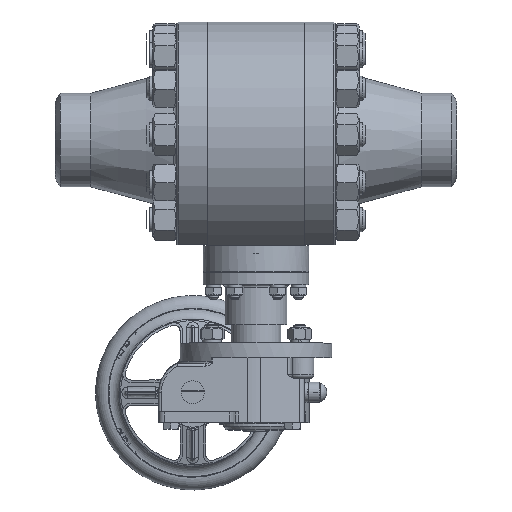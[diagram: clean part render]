
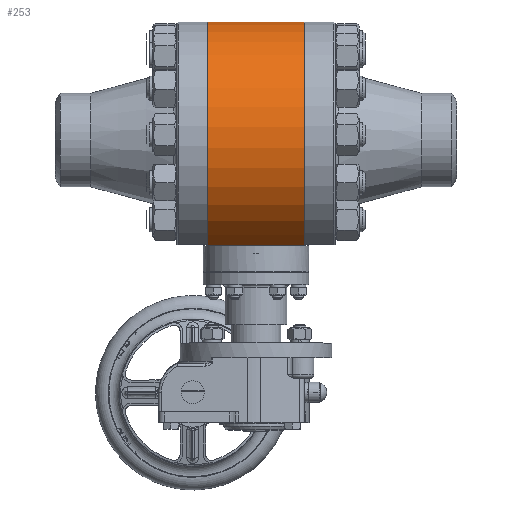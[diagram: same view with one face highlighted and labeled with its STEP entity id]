
A CAD part, top view. The second image highlights one B-rep face of the part: STEP entity #253.
In plain terms, the highlighted cylindrical face has radius 97.5 mm (diameter 195 mm), a partial arc.
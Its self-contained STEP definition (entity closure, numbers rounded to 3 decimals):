
#253=ADVANCED_FACE('',(#20423),#20425,.T.);
#20423=FACE_OUTER_BOUND('',#20424,.T.);
#20424=EDGE_LOOP('',(#58187,#58188,#58189,#58190));
#20425=CYLINDRICAL_SURFACE('',#20426,97.5);
#20426=AXIS2_PLACEMENT_3D('',#20427,#20428,#20429);
#20427=CARTESIAN_POINT('',(-40.,0.,18.363));
#20428=DIRECTION('',(1.,-0.,-0.));
#20429=DIRECTION('',(0.,1.,0.));
#58187=ORIENTED_EDGE('',*,*,#87302,.T.);
#58188=ORIENTED_EDGE('',*,*,#87269,.T.);
#58189=ORIENTED_EDGE('',*,*,#87266,.F.);
#58190=ORIENTED_EDGE('',*,*,#87277,.T.);
#87266=EDGE_CURVE('',#91158,#91160,#91161,.T.);
#87269=EDGE_CURVE('',#91165,#91160,#91166,.T.);
#87277=EDGE_CURVE('',#91158,#91177,#91179,.F.);
#87302=EDGE_CURVE('',#91177,#91165,#91216,.T.);
#91158=VERTEX_POINT('',#102564);
#91160=VERTEX_POINT('',#102570);
#91161=CIRCLE('',#102571,97.5);
#91165=VERTEX_POINT('',#102585);
#91166=LINE('',#102586,#102587);
#91177=VERTEX_POINT('',#102616);
#91179=LINE('',#102622,#102623);
#91216=CIRCLE('',#102721,97.5);
#102564=CARTESIAN_POINT('',(39.8,-87.,-25.652));
#102570=CARTESIAN_POINT('',(39.8,-87.,62.377));
#102571=AXIS2_PLACEMENT_3D('',#102572,#102573,#102574);
#102572=CARTESIAN_POINT('',(39.8,0.,18.363));
#102573=DIRECTION('',(1.,0.,-0.));
#102574=DIRECTION('',(0.,-0.892,-0.451));
#102585=CARTESIAN_POINT('',(-39.8,-87.,62.377));
#102586=CARTESIAN_POINT('',(-39.8,-87.,62.377));
#102587=VECTOR('',#102588,1.);
#102588=DIRECTION('',(1.,0.,0.));
#102616=CARTESIAN_POINT('',(-39.8,-87.,-25.652));
#102622=CARTESIAN_POINT('',(-39.8,-87.,-25.652));
#102623=VECTOR('',#102624,1.);
#102624=DIRECTION('',(1.,0.,0.));
#102721=AXIS2_PLACEMENT_3D('',#102722,#102723,#102724);
#102722=CARTESIAN_POINT('',(-39.8,0.,18.363));
#102723=DIRECTION('',(1.,0.,-0.));
#102724=DIRECTION('',(0.,-0.892,-0.451));
